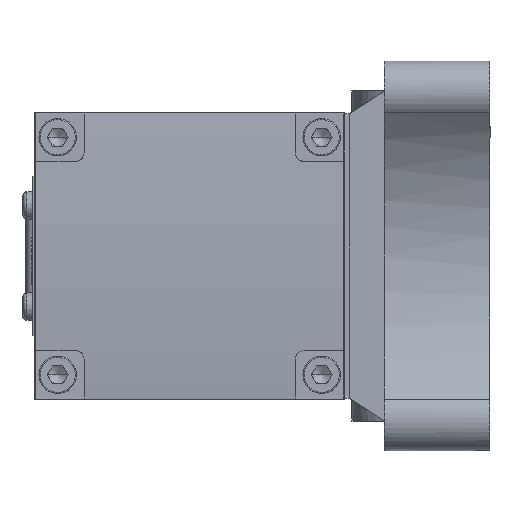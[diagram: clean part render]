
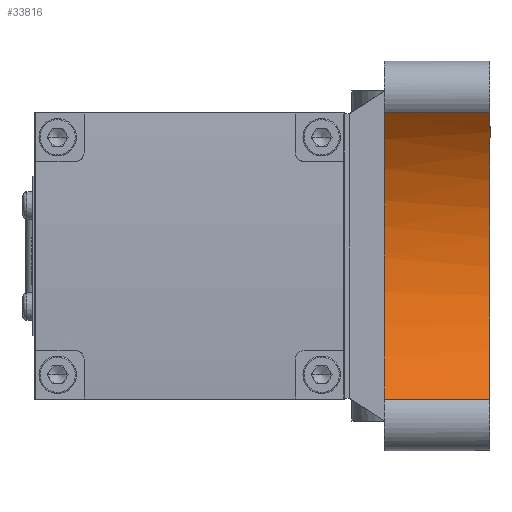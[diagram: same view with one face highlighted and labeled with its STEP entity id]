
A CAD part, left-side view. The second image highlights one B-rep face of the part: STEP entity #33816.
In plain terms, the highlighted cylindrical face has radius 48.5 mm (diameter 97 mm), a partial arc.
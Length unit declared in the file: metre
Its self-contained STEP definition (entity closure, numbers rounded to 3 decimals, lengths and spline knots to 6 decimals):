
#2039 = CARTESIAN_POINT ( 'NONE',  ( -0.053838, -0.008, -0.028072 ) ) ;
#4938 = CARTESIAN_POINT ( 'NONE',  ( -0.049423, -0.008, -0.020453 ) ) ;
#5606 = ORIENTED_EDGE ( 'NONE', *, *, #15969, .T. ) ;
#6785 = EDGE_CURVE ( 'NONE', #13176, #6989, #11961, .T. ) ;
#6989 = VERTEX_POINT ( 'NONE', #21432 ) ;
#7187 = CARTESIAN_POINT ( 'NONE',  ( -0.057583, -0.032, -0.032596 ) ) ;
#7739 = CARTESIAN_POINT ( 'NONE',  ( -0.046455, -0.008, -0.012164 ) ) ;
#8065 = ORIENTED_EDGE ( 'NONE', *, *, #11552, .T. ) ;
#8424 = VERTEX_POINT ( 'NONE', #20734 ) ;
#8437 = CYLINDRICAL_SURFACE ( 'NONE', #9490, 0.0485 ) ;
#9490 = AXIS2_PLACEMENT_3D ( 'NONE', #14043, #19287, #29792 ) ;
#11535 = DIRECTION ( 'NONE',  ( 0., -1., 0. ) ) ;
#11552 = EDGE_CURVE ( 'NONE', #24791, #31323, #33837, .T. ) ;
#11887 = CARTESIAN_POINT ( 'NONE',  ( -0.057583, -0.02, -0.032596 ) ) ;
#11961 = LINE ( 'NONE', #17196, #32155 ) ;
#13176 = VERTEX_POINT ( 'NONE', #13858 ) ;
#13768 = EDGE_LOOP ( 'NONE', ( #5606, #16146, #8065, #19132, #16083, #34557 ) ) ;
#13858 = CARTESIAN_POINT ( 'NONE',  ( -0.057583, -0.032, 0.032596 ) ) ;
#14043 = CARTESIAN_POINT ( 'NONE',  ( -0.093497, -0.032, 0. ) ) ;
#15969 = EDGE_CURVE ( 'NONE', #6989, #8424, #25096, .T. ) ;
#16083 = ORIENTED_EDGE ( 'NONE', *, *, #16788, .T. ) ;
#16146 = ORIENTED_EDGE ( 'NONE', *, *, #16344, .T. ) ;
#16344 = EDGE_CURVE ( 'NONE', #8424, #24791, #25363, .T. ) ;
#16588 = EDGE_CURVE ( 'NONE', #31323, #27284, #17269, .T. ) ;
#16788 = EDGE_CURVE ( 'NONE', #27284, #13176, #26003, .T. ) ;
#17196 = CARTESIAN_POINT ( 'NONE',  ( -0.057583, -0.02, 0.032596 ) ) ;
#17269 = LINE ( 'NONE', #11887, #24951 ) ;
#17779 = DIRECTION ( 'NONE',  ( 0., 1., 0. ) ) ;
#18324 = CARTESIAN_POINT ( 'NONE',  ( -0.055612, -0.008, -0.030423 ) ) ;
#19132 = ORIENTED_EDGE ( 'NONE', *, *, #16588, .T. ) ;
#19286 = CARTESIAN_POINT ( 'NONE',  ( -0.055582, -0.032, -0.03039 ) ) ;
#19287 = DIRECTION ( 'NONE',  ( 0., 1., 0. ) ) ;
#19619 = CARTESIAN_POINT ( 'NONE',  ( -0.057583, -0.032, -0.032596 ) ) ;
#19946 = CARTESIAN_POINT ( 'NONE',  ( -0.053783, -0.032, -0.027999 ) ) ;
#19987 = CARTESIAN_POINT ( 'NONE',  ( -0.050656, -0.032, -0.022929 ) ) ;
#20020 = CARTESIAN_POINT ( 'NONE',  ( -0.049326, -0.032, -0.020249 ) ) ;
#20049 = CARTESIAN_POINT ( 'NONE',  ( -0.04718, -0.032, -0.014692 ) ) ;
#20084 = CARTESIAN_POINT ( 'NONE',  ( -0.046364, -0.032, -0.011814 ) ) ;
#20155 = CARTESIAN_POINT ( 'NONE',  ( -0.045272, -0.032, -0.005957 ) ) ;
#20198 = CARTESIAN_POINT ( 'NONE',  ( -0.044997, -0.032, -0.002979 ) ) ;
#20238 = CARTESIAN_POINT ( 'NONE',  ( -0.044997, -0.032, 0.002979 ) ) ;
#20314 = CARTESIAN_POINT ( 'NONE',  ( -0.045272, -0.032, 0.005957 ) ) ;
#20350 = CARTESIAN_POINT ( 'NONE',  ( -0.044996, -0.008, -0.00018 ) ) ;
#20357 = CARTESIAN_POINT ( 'NONE',  ( -0.046364, -0.032, 0.011814 ) ) ;
#20386 = CARTESIAN_POINT ( 'NONE',  ( -0.04718, -0.032, 0.014692 ) ) ;
#20422 = CARTESIAN_POINT ( 'NONE',  ( -0.049326, -0.032, 0.020249 ) ) ;
#20454 = CARTESIAN_POINT ( 'NONE',  ( -0.050656, -0.032, 0.022929 ) ) ;
#20521 = CARTESIAN_POINT ( 'NONE',  ( -0.053783, -0.032, 0.027999 ) ) ;
#20665 = CARTESIAN_POINT ( 'NONE',  ( -0.045, -0.008, 0.000541 ) ) ;
#20673 = CARTESIAN_POINT ( 'NONE',  ( -0.055582, -0.032, 0.03039 ) ) ;
#20734 = CARTESIAN_POINT ( 'NONE',  ( -0.045, -0.008, 0.000541 ) ) ;
#20736 = CARTESIAN_POINT ( 'NONE',  ( -0.044996, -0.008, 0.00018 ) ) ;
#20745 = CARTESIAN_POINT ( 'NONE',  ( -0.057583, -0.032, 0.032596 ) ) ;
#20836 = CARTESIAN_POINT ( 'NONE',  ( -0.050743, -0.008, -0.023087 ) ) ;
#21432 = CARTESIAN_POINT ( 'NONE',  ( -0.057583, -0.008, 0.032596 ) ) ;
#21998 = CARTESIAN_POINT ( 'NONE',  ( -0.057583, -0.008, -0.032596 ) ) ;
#23150 = FACE_OUTER_BOUND ( 'NONE', #13768, .T. ) ;
#23443 = CARTESIAN_POINT ( 'NONE',  ( -0.047279, -0.008, -0.014992 ) ) ;
#24791 = VERTEX_POINT ( 'NONE', #29863 ) ;
#24951 = VECTOR ( 'NONE', #11535, 1. ) ;
#25096 = B_SPLINE_CURVE_WITH_KNOTS ( 'NONE', 3,
 ( #27309, #27010, #28319, #28283, #28243, #28215, #28174, #28133, #28053, #28001 ),
 .UNSPECIFIED., .F., .F.,
 ( 4, 2, 2, 2, 4 ),
 ( 0., 0.25, 0.5, 0.75, 1. ),
 .UNSPECIFIED. ) ;
#25363 = B_SPLINE_CURVE_WITH_KNOTS ( 'NONE', 3,
 ( #20665, #20736, #20350, #25766 ),
 .UNSPECIFIED., .F., .F.,
 ( 4, 4 ),
 ( 0., 1. ),
 .UNSPECIFIED. ) ;
#25766 = CARTESIAN_POINT ( 'NONE',  ( -0.045, -0.008, -0.000541 ) ) ;
#26003 = B_SPLINE_CURVE_WITH_KNOTS ( 'NONE', 3,
 ( #19619, #19286, #19946, #19987, #20020, #20049, #20084, #20155, #20198, #20238, #20314, #20357, #20386, #20422, #20454, #20521, #20673, #20745 ),
 .UNSPECIFIED., .F., .F.,
 ( 4, 2, 2, 2, 2, 2, 2, 2, 4 ),
 ( 0., 0.125, 0.25, 0.375, 0.5, 0.625, 0.75, 0.875, 1. ),
 .UNSPECIFIED. ) ;
#26127 = CARTESIAN_POINT ( 'NONE',  ( -0.045332, -0.008, -0.006405 ) ) ;
#27010 = CARTESIAN_POINT ( 'NONE',  ( -0.055612, -0.008, 0.030423 ) ) ;
#27284 = VERTEX_POINT ( 'NONE', #7187 ) ;
#27309 = CARTESIAN_POINT ( 'NONE',  ( -0.057583, -0.008, 0.032596 ) ) ;
#28001 = CARTESIAN_POINT ( 'NONE',  ( -0.045, -0.008, 0.000541 ) ) ;
#28053 = CARTESIAN_POINT ( 'NONE',  ( -0.045033, -0.008, 0.003474 ) ) ;
#28133 = CARTESIAN_POINT ( 'NONE',  ( -0.045332, -0.008, 0.006405 ) ) ;
#28174 = CARTESIAN_POINT ( 'NONE',  ( -0.046455, -0.008, 0.012164 ) ) ;
#28215 = CARTESIAN_POINT ( 'NONE',  ( -0.047279, -0.008, 0.014992 ) ) ;
#28243 = CARTESIAN_POINT ( 'NONE',  ( -0.049423, -0.008, 0.020453 ) ) ;
#28283 = CARTESIAN_POINT ( 'NONE',  ( -0.050743, -0.008, 0.023087 ) ) ;
#28319 = CARTESIAN_POINT ( 'NONE',  ( -0.053838, -0.008, 0.028072 ) ) ;
#29792 = DIRECTION ( 'NONE',  ( 0., 0., 1. ) ) ;
#29863 = CARTESIAN_POINT ( 'NONE',  ( -0.045, -0.008, -0.000541 ) ) ;
#31323 = VERTEX_POINT ( 'NONE', #21998 ) ;
#31551 = CARTESIAN_POINT ( 'NONE',  ( -0.045, -0.008, -0.000541 ) ) ;
#32155 = VECTOR ( 'NONE', #17779, 1. ) ;
#33816 = ADVANCED_FACE ( 'NONE', ( #23150 ), #8437, .F. ) ;
#33837 = B_SPLINE_CURVE_WITH_KNOTS ( 'NONE', 3,
 ( #31551, #34189, #26127, #7739, #23443, #4938, #20836, #2039, #18324, #34096 ),
 .UNSPECIFIED., .F., .F.,
 ( 4, 2, 2, 2, 4 ),
 ( 0., 0.25, 0.5, 0.75, 1. ),
 .UNSPECIFIED. ) ;
#34096 = CARTESIAN_POINT ( 'NONE',  ( -0.057583, -0.008, -0.032596 ) ) ;
#34189 = CARTESIAN_POINT ( 'NONE',  ( -0.045033, -0.008, -0.003474 ) ) ;
#34557 = ORIENTED_EDGE ( 'NONE', *, *, #6785, .T. ) ;
